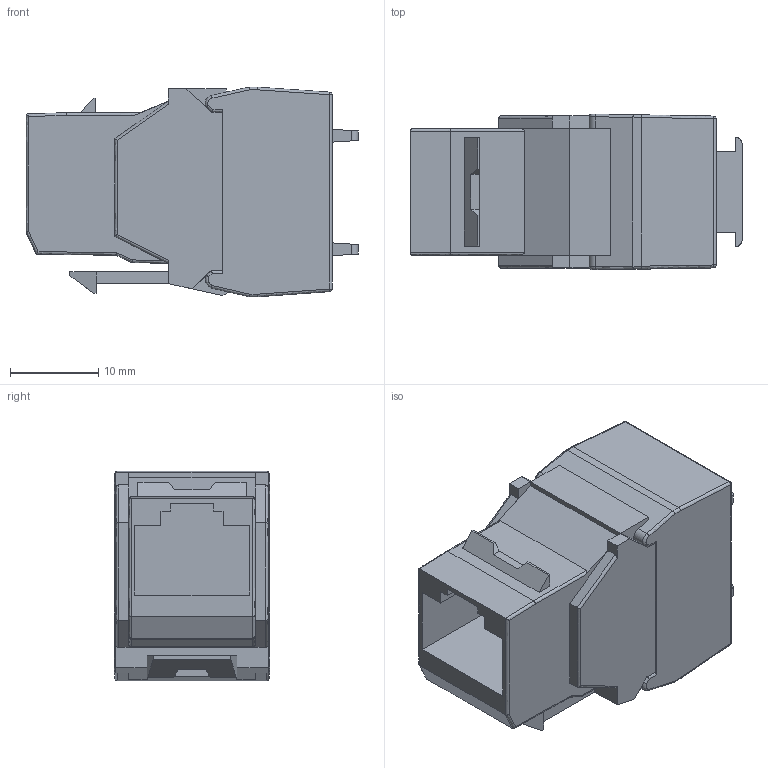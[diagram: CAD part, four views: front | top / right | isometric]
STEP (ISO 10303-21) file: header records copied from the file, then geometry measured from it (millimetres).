
FILE_DESCRIPTION( ('This file contains a STEP AP42 implementation' ,'as created by ZW3D STEP Interface translator.') ,'2;1' );
FILE_NAME( 'TB-015_SY-504S-10G_SD.stp' ,'26 330.134527', (''), ('ZWCAD Software Co.'), 'Version 1.0', 'ZW3D to STEP translator', '' );
FILE_SCHEMA(('AUTOMOTIVE_DESIGN'));
Length unit declared in the file: millimetre
Products named in the file (2): 0; TB-015_SY-504S-10G_SD
Bounding box: 37.53 x 17.58 x 23.7 mm (x, y, z)
Volume: 9698.3 mm3; surface area: 5092.2 mm2
Topology: 3 solids, 3 shells, 209 faces, 528 edges, 330 vertices
Faces by surface type: bspline 209
Entity records: 10034 total; most frequent: CARTESIAN_POINT 6570, ORIENTED_EDGE 1056, B_SPLINE_CURVE_WITH_KNOTS 528, EDGE_CURVE 528, VERTEX_POINT 330, EDGE_LOOP 214, FACE_OUTER_BOUND 209, ADVANCED_FACE 209
